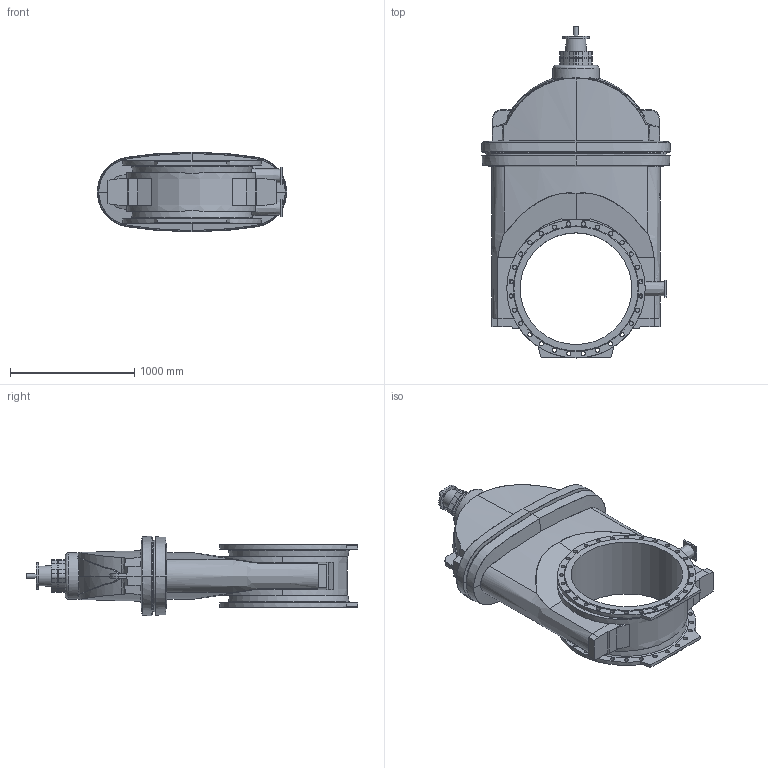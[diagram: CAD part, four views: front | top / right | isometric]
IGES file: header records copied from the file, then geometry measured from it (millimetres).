
Start section: SolidWorks IGES file using analytic representation for surfaces
Global section: file name: \\avksan2\techshare\PBM outline export from Enovia\O_06_30_DN900_00464_AA2.igs; native system: SolidWorks 2012; preprocessor: SolidWorks 2012; author: pbm; date: 180820.074450; units: millimetre
Bounding box: 1525 x 2674.75 x 642.5 mm (x, y, z)
Surface area: 10277579 mm2 (no closed solid volume)
Topology: 0 solids, 0 shells, 354 faces, 1940 edges, 1802 vertices
Faces by surface type: bspline 198, revolution 156
